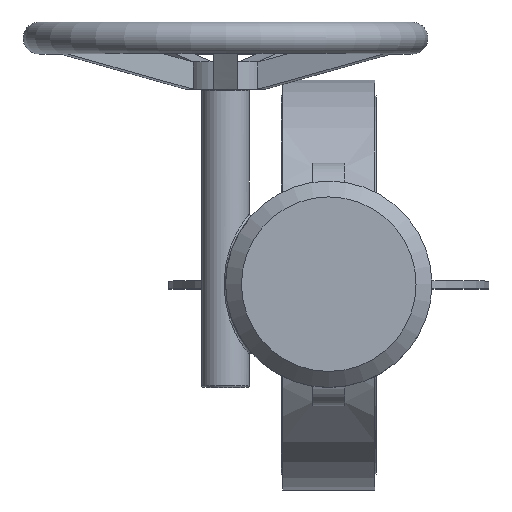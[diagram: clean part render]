
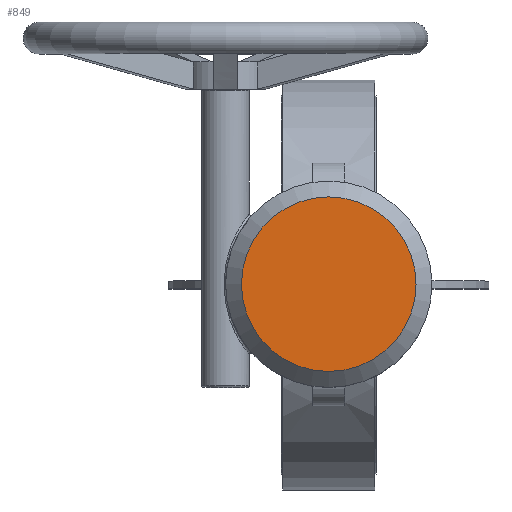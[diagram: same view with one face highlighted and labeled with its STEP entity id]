
A CAD part, top view. The second image highlights one B-rep face of the part: STEP entity #849.
In plain terms, the highlighted planar face has unit normal (0, 0, 1).
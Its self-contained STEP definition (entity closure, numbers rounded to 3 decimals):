
#849=ADVANCED_FACE('',(#2642),#2644,.T.);
#2642=FACE_BOUND('',#2643,.T.);
#2643=EDGE_LOOP('',(#3387));
#2644=PLANE('',#2645);
#2645=AXIS2_PLACEMENT_3D('',#2646,#2647,#2648);
#2646=CARTESIAN_POINT('',(0.,0.,306.));
#2647=DIRECTION('',(0.,0.,1.));
#2648=DIRECTION('',(-1.,0.,0.));
#3387=ORIENTED_EDGE('',*,*,#3777,.T.);
#3777=EDGE_CURVE('',#4203,#4203,#4204,.T.);
#4203=VERTEX_POINT('',#6054);
#4204=CIRCLE('',#6055,55.);
#6054=CARTESIAN_POINT('',(-55.,0.,306.));
#6055=AXIS2_PLACEMENT_3D('',#6056,#6057,#6058);
#6056=CARTESIAN_POINT('',(0.,0.,306.));
#6057=DIRECTION('',(0.,0.,1.));
#6058=DIRECTION('',(-1.,0.,0.));
